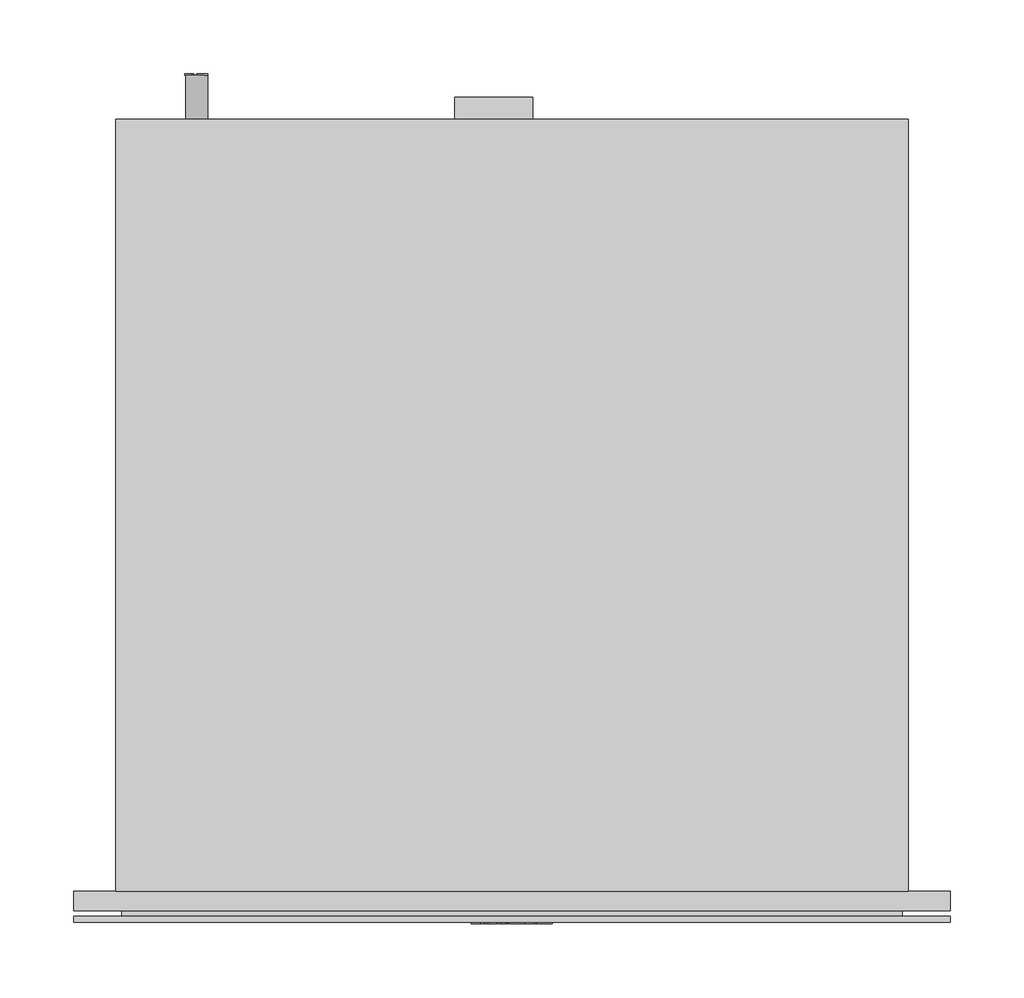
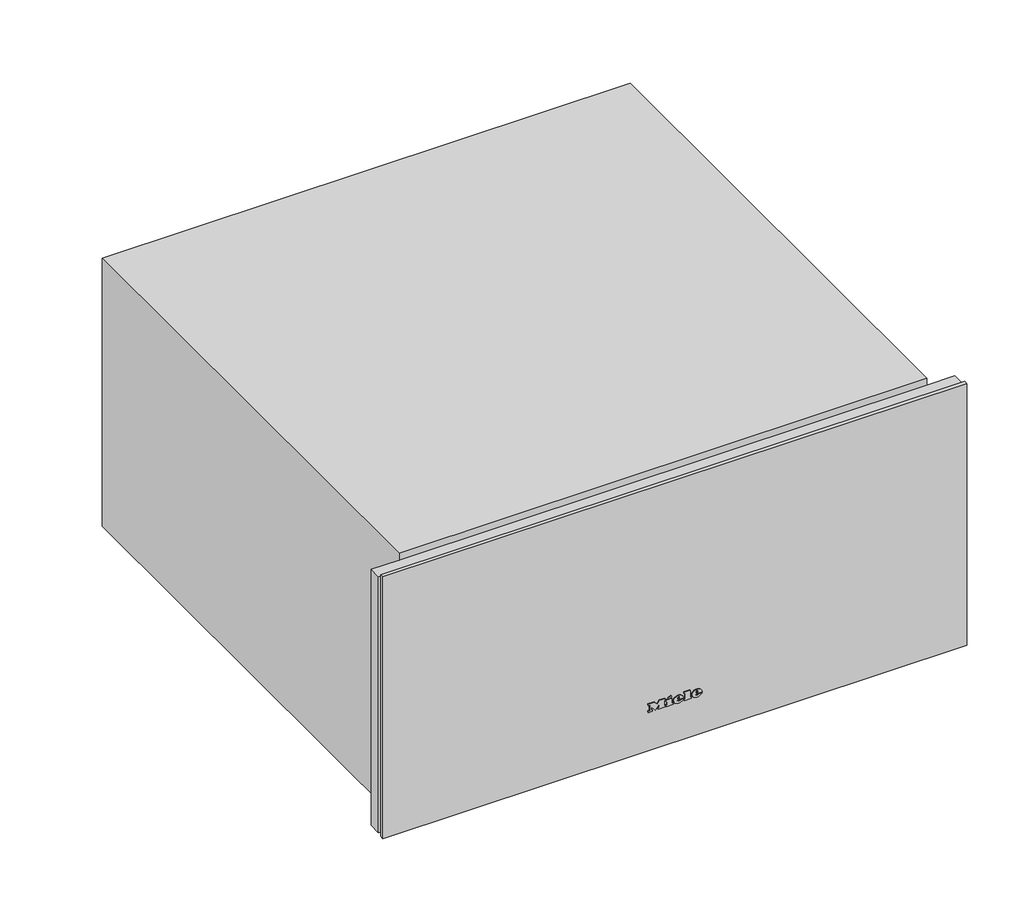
# Not in any storey: 1 proxy.
"""IFC4 building model written with IfcOpenShell, lengths in millimetres."""

import ifcopenshell
import ifcopenshell.guid

model = None  # the IFC model being written
_history = None  # IfcOwnerHistory: only IFC2X3 demands one
_inside = {}  # id of a spatial element -> (the spatial element, [elements in it])
_under = {}  # id of a project, library or spatial element -> (it, [spatial elements below it])
_declared = {}  # id of a project -> (the project, [libraries it declares])
_typed = {}  # id of a type object -> (the type object, [elements of that type])
_made_of = {}  # id of a material, layer set ... -> (it, [elements and type objects made of it])


def new_model(schema):
    """Start an empty IFC model of exactly this schema.

    Asked for "IFC4X3", IfcOpenShell would pick the latest addendum, in which some entities
    have other attributes; the version numbers below select the first issue.
    IFC2X3 requires an IfcOwnerHistory on every rooted entity: one is made here for all.
    """
    global model, _history
    if schema == "IFC4X3":
        model = ifcopenshell.file(schema_version=(4, 3, 0, 0))
    else:
        model = ifcopenshell.file(schema=schema)
    _inside.clear()
    _under.clear()
    _declared.clear()
    _typed.clear()
    _made_of.clear()
    _history = None
    if model.schema == "IFC2X3":
        org = make("IfcOrganization", Name="unknown")
        user = make(
            "IfcPersonAndOrganization",
            ThePerson=make("IfcPerson", FamilyName="unknown"),
            TheOrganization=org,
        )
        app = make(
            "IfcApplication",
            ApplicationDeveloper=org,
            Version="unknown",
            ApplicationFullName="unknown",
            ApplicationIdentifier="unknown",
        )
        _history = make(
            "IfcOwnerHistory",
            OwningUser=user,
            OwningApplication=app,
            ChangeAction="ADDED",
            CreationDate=0,
        )
    return model


def make(cls, **values):
    """One entity of the class cls with the attributes given. An attribute that is None is left unset."""
    return model.create_entity(
        cls, **{name: value for name, value in values.items() if value is not None}
    )


def rooted(cls, **values):
    """An entity with a GlobalId (a new one), such as an element, a storey or a relation."""
    return make(cls, GlobalId=ifcopenshell.guid.new(), OwnerHistory=_history, **values)


def si_unit(unit_type, name, prefix=None):
    """IfcSIUnit, for example si_unit("LENGTHUNIT", "METRE", prefix="MILLI")."""
    return make("IfcSIUnit", UnitType=unit_type, Prefix=prefix, Name=name)


def assignment(units):
    """IfcUnitAssignment: the units of a project."""
    return None if units is None else make("IfcUnitAssignment", Units=units)


def point(xyz):
    """IfcCartesianPoint."""
    return None if xyz is None else make("IfcCartesianPoint", Coordinates=xyz)


def direction(xyz):
    """IfcDirection."""
    return None if xyz is None else make("IfcDirection", DirectionRatios=xyz)


def frame(location, z_axis=None, x_axis=None):
    """IfcAxis2Placement3D, a coordinate frame: its origin and axes. An axis left out is left unset."""
    return make(
        "IfcAxis2Placement3D",
        Location=point(location),
        Axis=direction(z_axis),
        RefDirection=direction(x_axis),
    )


def frame_2d(location, x_axis=None):
    """IfcAxis2Placement2D, a coordinate frame in the plane: its origin and x axis."""
    return make(
        "IfcAxis2Placement2D", Location=point(location), RefDirection=direction(x_axis)
    )


def origin():
    """The frame at (0, 0, 0) with its axes left unset."""
    return frame((0.0, 0.0, 0.0))


def place(relative_to, where):
    """IfcLocalPlacement: puts the frame where relative to a parent placement (None: the world)."""
    return make(
        "IfcLocalPlacement", PlacementRelTo=relative_to, RelativePlacement=where
    )


def context(
    kind, dimensions, precision=None, world=None, true_north=None, identifier=None
):
    """IfcGeometricRepresentationContext, for example the 3D "Model" context."""
    return make(
        "IfcGeometricRepresentationContext",
        ContextIdentifier=identifier,
        ContextType=kind,
        CoordinateSpaceDimension=dimensions,
        Precision=precision,
        WorldCoordinateSystem=world,
        TrueNorth=true_north,
    )


def project(units=None, contexts=None):
    """IfcProject with its units and contexts."""
    return rooted(
        "IfcProject",
        Name="project",
        RepresentationContexts=contexts,
        UnitsInContext=assignment(units),
    )


def spatial(cls, under=None, at=None, **own):
    """A site, building, storey or space (cls), placed at a placement, below another one or the project."""
    s = rooted(cls, ObjectPlacement=at, **own)
    if under is not None:
        _under.setdefault(under.id(), (under, []))[1].append(s)
    return s


def polyline(points):
    """IfcPolyline through the points."""
    return make("IfcPolyline", Points=[point(p) for p in points])


def circle_curve(where, radius):
    """IfcCircle in the frame where."""
    return make("IfcCircle", Position=where, Radius=radius)


def ellipse_curve(where, semi_axis1, semi_axis2):
    """IfcEllipse in the frame where."""
    return make(
        "IfcEllipse", Position=where, SemiAxis1=semi_axis1, SemiAxis2=semi_axis2
    )


def trimmed(basis, trim1, trim2, sense, master):
    """IfcTrimmedCurve: the piece of a basis curve between two trims."""
    return make(
        "IfcTrimmedCurve",
        BasisCurve=basis,
        Trim1=trim1,
        Trim2=trim2,
        SenseAgreement=sense,
        MasterRepresentation=master,
    )


def segment(curve, same_sense, transition):
    """IfcCompositeCurveSegment."""
    return make(
        "IfcCompositeCurveSegment",
        Transition=transition,
        SameSense=same_sense,
        ParentCurve=curve,
    )


def composite_curve(segments, self_intersect=None):
    """IfcCompositeCurve: segments joined end to end."""
    return make("IfcCompositeCurve", Segments=segments, SelfIntersect=self_intersect)


def outline(outer, holes=None, kind="AREA"):
    """IfcArbitraryClosedProfileDef: a profile drawn as a closed curve; with holes, ...WithVoids."""
    if holes is None:
        return make("IfcArbitraryClosedProfileDef", ProfileType=kind, OuterCurve=outer)
    return make(
        "IfcArbitraryProfileDefWithVoids",
        ProfileType=kind,
        OuterCurve=outer,
        InnerCurves=holes,
    )


def extrude(swept, where, along, depth):
    """IfcExtrudedAreaSolid: the profile swept, set in the frame where, extruded along a direction by depth."""
    return make(
        "IfcExtrudedAreaSolid",
        SweptArea=swept,
        Position=where,
        ExtrudedDirection=direction(along),
        Depth=depth,
    )


def faces_of(points, faces, orient=None, outer=None):
    """IfcFace entities. A face is a list of loops; a loop is a list of indices into points, from 0.

    orient and outer hold one flag for each loop. By default every Orientation is true, the
    first loop of a face is its IfcFaceOuterBound and the others are IfcFaceBound.
    """
    made = []
    for i, loops in enumerate(faces):
        bounds = []
        for j, loop in enumerate(loops):
            is_outer = j == 0 if outer is None else outer[i][j]
            bounds.append(
                make(
                    "IfcFaceOuterBound" if is_outer else "IfcFaceBound",
                    Bound=make("IfcPolyLoop", Polygon=[points[k] for k in loop]),
                    Orientation=True if orient is None else orient[i][j],
                )
            )
        made.append(make("IfcFace", Bounds=bounds))
    return made


def faceted_brep(points, faces, orient=None, outer=None, voids=None):
    """IfcFacetedBrep: a solid bounded by flat faces; with voids (closed shells), ...WithVoids."""
    shared = [point(p) for p in points]
    hull = make("IfcClosedShell", CfsFaces=faces_of(shared, faces, orient, outer))
    if voids is None:
        return make("IfcFacetedBrep", Outer=hull)
    return make(
        "IfcFacetedBrepWithVoids",
        Outer=hull,
        Voids=[
            make(cls, CfsFaces=faces_of(shared, fs, o, b)) for cls, fs, o, b in voids
        ],
    )


def shape(context_of_items, identifier, shape_type, items):
    """IfcShapeRepresentation: the items that make up one representation, for example the "Body"."""
    return make(
        "IfcShapeRepresentation",
        ContextOfItems=context_of_items,
        RepresentationIdentifier=identifier,
        RepresentationType=shape_type,
        Items=items,
    )


def source(mapping_origin, context_of_items, identifier, shape_type, items):
    """IfcRepresentationMap: a shape defined once, which mapped items show again and again."""
    return make(
        "IfcRepresentationMap",
        MappingOrigin=mapping_origin,
        MappedRepresentation=shape(context_of_items, identifier, shape_type, items),
    )


def transform(
    local_origin,
    x_axis=None,
    y_axis=None,
    z_axis=None,
    scale=None,
    scale2=None,
    scale3=None,
    uniform=True,
):
    """IfcCartesianTransformationOperator3D, or its non-uniform kind. x_axis, y_axis, z_axis: its Axis1, 2, 3."""
    if uniform:
        return make(
            "IfcCartesianTransformationOperator3D",
            Axis1=direction(x_axis),
            Axis2=direction(y_axis),
            LocalOrigin=point(local_origin),
            Scale=scale,
            Axis3=direction(z_axis),
        )
    return make(
        "IfcCartesianTransformationOperator3DnonUniform",
        Axis1=direction(x_axis),
        Axis2=direction(y_axis),
        LocalOrigin=point(local_origin),
        Scale=scale,
        Axis3=direction(z_axis),
        Scale2=scale2,
        Scale3=scale3,
    )


def mapped(mapping_source, mapping_target):
    """IfcMappedItem: shows the shape of a source again, moved by a transform."""
    return make(
        "IfcMappedItem", MappingSource=mapping_source, MappingTarget=mapping_target
    )


def made_of(thing, what):
    """Note that an element or type object is made of a material, layer set ...; save() writes the relation."""
    if what is not None:
        _made_of.setdefault(what.id(), (what, []))[1].append(thing)
    return thing


def element(
    cls,
    number,
    at=None,
    inside=None,
    cuts=None,
    type_object=None,
    material=None,
    context=None,
    identifier="Body",
    shape_type=None,
    held_by="IfcProductDefinitionShape",
    body=None,
    shapes=None,
    **own,
):
    """One element of the class cls, such as IfcWall. Its Tag is "e" and its number.

    at: its placement. inside: the storey or other place that contains it. cuts: it is an
    opening in that element (IfcRelVoidsElement). A single representation is given by context,
    identifier, shape_type and body (its items); several are given by shapes. held_by: the class
    of the entity that holds the representations. save() writes the other relations.
    """
    e = rooted(cls, Tag="e%d" % number, ObjectPlacement=at, **own)
    if body is not None:
        shapes = [shape(context, identifier, shape_type, body)]
    if shapes is not None:
        e.Representation = make(held_by, Representations=shapes)
    if inside is not None:
        _inside.setdefault(inside.id(), (inside, []))[1].append(e)
    if cuts is not None:
        rooted(
            "IfcRelVoidsElement", RelatingBuildingElement=cuts, RelatedOpeningElement=e
        )
    if type_object is not None:
        _typed.setdefault(type_object.id(), (type_object, []))[1].append(e)
    return made_of(e, material)


def aggregate(whole, parts):
    """IfcRelAggregates: a whole, such as a stair, and the parts it consists of."""
    return rooted("IfcRelAggregates", RelatingObject=whole, RelatedObjects=parts)


def save(model, path):
    """Write the relations noted so far, then the file.

    IfcRelAggregates (storeys below a building ...), IfcRelContainedInSpatialStructure (elements
    in a storey), IfcRelDefinesByType, IfcRelAssociatesMaterial and IfcRelDeclares: one each for
    every whole, place, type object, material and project.
    """
    for whole, parts in _under.values():
        aggregate(whole, parts)
    for where, things in _inside.values():
        rooted(
            "IfcRelContainedInSpatialStructure",
            RelatedElements=things,
            RelatingStructure=where,
        )
    for kind, things in _typed.values():
        rooted("IfcRelDefinesByType", RelatedObjects=things, RelatingType=kind)
    for what, things in _made_of.values():
        rooted("IfcRelAssociatesMaterial", RelatedObjects=things, RelatingMaterial=what)
    for by, libraries in _declared.values():
        rooted("IfcRelDeclares", RelatingContext=by, RelatedDefinitions=libraries)
    model.write(path)


def plane_surface(at):
    """IfcPlane: the flat surface through the origin of the frame at, square to its z axis."""
    return make("IfcPlane", Position=at)


def cylinder_surface(at, radius):
    """IfcCylindricalSurface: all points at the distance radius from the z axis of the frame at."""
    return make("IfcCylindricalSurface", Position=at, Radius=radius)


def revolved_surface(curve, axis_point, axis_direction):
    """IfcSurfaceOfRevolution: the curve turned about the line through axis_point along axis_direction."""
    return make(
        "IfcSurfaceOfRevolution",
        SweptCurve=make("IfcArbitraryOpenProfileDef", ProfileType="CURVE", Curve=curve),
        AxisPosition=make("IfcAxis1Placement", Location=point(axis_point), Axis=direction(axis_direction)),
    )


def extruded_surface(curve, direction_of_extrusion, depth):
    """IfcSurfaceOfLinearExtrusion: the curve pushed along a direction by depth."""
    return make(
        "IfcSurfaceOfLinearExtrusion",
        SweptCurve=make("IfcArbitraryOpenProfileDef", ProfileType="CURVE", Curve=curve),
        ExtrudedDirection=direction(direction_of_extrusion),
        Depth=depth,
    )


def advanced_brep(points, edges, surfaces, faces):
    """IfcAdvancedBrep: a solid bounded by faces that lie on surfaces and meet in shared edges.

    An edge is (start, end): straight between two places in points (the first is 0);
    or (start, end, curve); or (start, end, curve, False) where it runs against its curve.
    A face is (place in surfaces, loops), or (place, loops, False) where it looks against
    its surface's normal. A loop lists edges by number (the first is 1), with a minus sign
    where the edge is run from its end to its start. The first loop is the outer one.
    """
    corners = [point(p) for p in points]
    vertices = [make("IfcVertexPoint", VertexGeometry=c) for c in corners]
    made = []
    for start, end, *more in edges:
        made.append(
            make(
                "IfcEdgeCurve",
                EdgeStart=vertices[start],
                EdgeEnd=vertices[end],
                EdgeGeometry=more[0] if more else make("IfcPolyline", Points=[corners[start], corners[end]]),
                SameSense=more[1] if len(more) > 1 else True,
            )
        )
    hull = []
    for where, loops, *sense in faces:
        bounds = []
        for j, loop in enumerate(loops):
            ring = [make("IfcOrientedEdge", EdgeElement=made[abs(k) - 1], Orientation=k > 0) for k in loop]
            bounds.append(
                make(
                    "IfcFaceOuterBound" if j == 0 else "IfcFaceBound",
                    Bound=make("IfcEdgeLoop", EdgeList=ring),
                    Orientation=True,
                )
            )
        hull.append(make("IfcAdvancedFace", Bounds=bounds, FaceSurface=surfaces[where], SameSense=sense[0] if sense else True))
    return make("IfcAdvancedBrep", Outer=make("IfcClosedShell", CfsFaces=hull))


def specialty_equipment_7f4cc5ff(model_context):
    return source(origin(), model_context, "Body", "SolidModel", [
        advanced_brep(
        [(21.28, -22.0, 48.133), (21.28, -22.0, 49.042), (27.301, -22.0, 49.042), (16.825, -22.0, 49.042), (19.3, -22.0, 46.0), (27.148, -22.0, 48.133), (24.43, -22.0, 48.133), (22.288, -22.0, 47.125), (21.28, -22.0, 50.194), (21.28, -22.0, 51.175), (22.819, -22.0, 51.175), (22.819, -22.0, 50.194), (21.28, -21.0, 48.133), (22.288, -21.0, 47.125), (24.43, -21.0, 48.133), (27.148, -21.0, 48.133), (19.3, -21.0, 46.0), (16.825, -21.0, 49.042), (27.301, -21.0, 49.042), (21.28, -21.0, 49.042), (21.28, -21.0, 50.194), (22.819, -21.0, 50.194), (22.819, -21.0, 51.175), (21.28, -21.0, 51.175)],
        [
            (0, 1),
            (1, 2),
            (2, 3, ellipse_curve(frame((22.063, -22.0, 49.042), z_axis=(0.0, -1.0, 0.0), x_axis=(-1.0, 0.0, 0.0)), 5.238, 4.329)),
            (3, 4, circle_curve(frame((20.3080491, -22.0, 49.348), z_axis=(0.0, -1.0, 0.0), x_axis=(0.0, 0.0, -1.0)), 3.4964649)),
            (4, 5, circle_curve(frame((21.9581428, -22.0, 51.724), z_axis=(0.0, -1.0, 0.0), x_axis=(0.0, 0.0, -1.0)), 6.3110933)),
            (5, 6),
            (6, 7, circle_curve(frame((22.7279412, -22.0, 48.97), z_axis=(0.0, 1.0, 0.0), x_axis=(0.0, 0.0, -1.0)), 1.896727)),
            (7, 0, circle_curve(frame((22.288, -22.0, 48.133), z_axis=(0.0, 1.0, 0.0), x_axis=(0.0, 0.0, -1.0)), 1.008)),
            (8, 9),
            (9, 10, circle_curve(frame((22.0495, -22.0, 51.175), z_axis=(0.0, 1.0, 0.0), x_axis=(0.0, 0.0, -1.0)), 0.7695)),
            (10, 11),
            (11, 8),
            (12, 13, circle_curve(frame((22.288, -21.0, 48.133), z_axis=(0.0, -1.0, 0.0), x_axis=(0.0, 0.0, -1.0)), 1.008)),
            (13, 14, circle_curve(frame((22.7279412, -21.0, 48.97), z_axis=(0.0, -1.0, 0.0), x_axis=(0.0, 0.0, -1.0)), 1.896727)),
            (14, 15),
            (15, 16, circle_curve(frame((21.9581428, -21.0, 51.724), z_axis=(0.0, 1.0, 0.0), x_axis=(0.0, 0.0, -1.0)), 6.3110933)),
            (16, 17, circle_curve(frame((20.3080491, -21.0, 49.348), z_axis=(0.0, 1.0, 0.0), x_axis=(0.0, 0.0, -1.0)), 3.4964649)),
            (17, 18, ellipse_curve(frame((22.063, -21.0, 49.042), z_axis=(0.0, 1.0, 0.0), x_axis=(-1.0, 0.0, 0.0)), 5.238, 4.329)),
            (18, 19),
            (19, 12),
            (20, 21),
            (21, 22),
            (22, 23, circle_curve(frame((22.0495, -21.0, 51.175), z_axis=(0.0, -1.0, 0.0), x_axis=(0.0, 0.0, -1.0)), 0.7695)),
            (23, 20),
            (0, 12),
            (19, 1),
            (18, 2),
            (5, 15),
            (14, 6),
            (17, 3),
            (13, 7),
            (16, 4),
            (8, 20),
            (23, 9),
            (22, 10),
            (21, 11),
        ],
        [
            plane_surface(frame((21.28, -22.0, 49.042), z_axis=(0.0, -1.0, 0.0), x_axis=(0.0, 0.0, 1.0))),
            plane_surface(frame((21.28, -21.0, 49.042), z_axis=(0.0, 1.0, 0.0), x_axis=(0.0, 0.0, -1.0))),
            plane_surface(frame((21.28, -22.0, 48.133), z_axis=(1.0, 0.0, 0.0), x_axis=(0.0, 1.0, 0.0))),
            plane_surface(frame((21.28, -22.0, 49.042), z_axis=(0.0, 0.0, -1.0), x_axis=(0.0, 1.0, 0.0))),
            plane_surface(frame((27.148, -22.0, 48.133), z_axis=(0.0, 0.0, 1.0), x_axis=(0.0, 1.0, 0.0))),
            extruded_surface(trimmed(ellipse_curve(frame((22.063, -20.0, 49.042), z_axis=(0.0, -1.0, 0.0), x_axis=(-1.0, 0.0, 0.0)), 5.238, 4.329), [point((27.301, -20.0, 49.042))], [point((16.825, -20.0, 49.042))], True, "CARTESIAN"), (0.0, -1.0, 0.0), 1.0),
            revolved_surface(polyline([(22.7279412, -21.0, 47.073273), (22.7279412, -22.0, 47.073273)]), (22.7279412, -21.0, 48.97), (0.0, 1.0, 0.0)),
            revolved_surface(polyline([(22.288, -21.0, 47.125), (22.288, -22.0, 47.125)]), (22.288, -21.0, 48.133), (0.0, 1.0, 0.0)),
            cylinder_surface(frame((20.3080491, -21.0, 49.348), z_axis=(0.0, -1.0, 0.0), x_axis=(0.0, 0.0, -1.0)), 3.4964649),
            cylinder_surface(frame((21.9581428, -21.0, 51.724), z_axis=(0.0, -1.0, 0.0), x_axis=(0.0, 0.0, -1.0)), 6.3110933),
            plane_surface(frame((21.28, -22.0, 50.194), z_axis=(1.0, 0.0, 0.0), x_axis=(0.0, 1.0, 0.0))),
            revolved_surface(polyline([(22.0495, -21.0, 50.405499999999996), (22.0495, -22.0, 50.405499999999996)]), (22.0495, -21.0, 51.175), (0.0, 1.0, 0.0)),
            plane_surface(frame((22.819, -22.0, 51.175), z_axis=(-1.0, 0.0, 0.0), x_axis=(0.0, 1.0, 0.0))),
            plane_surface(frame((22.819, -22.0, 50.194), z_axis=(0.0, 0.0, 1.0), x_axis=(0.0, 1.0, 0.0))),
        ],
        [
            (0, [[1, 2, 3, 4, 5, 6, 7, 8], [9, 10, 11, 12]]),
            (1, [[13, 14, 15, 16, 17, 18, 19, 20], [21, 22, 23, 24]]),
            (2, [[-1, 25, -20, 26]]),
            (3, [[-2, -26, -19, 27]]),
            (4, [[-6, 28, -15, 29]]),
            (5, [[-3, -27, -18, 30]]),
            (6, [[-7, -29, -14, 31]]),
            (7, [[-8, -31, -13, -25]]),
            (8, [[-4, -30, -17, 32]]),
            (9, [[-5, -32, -16, -28]]),
            (10, [[-9, 33, -24, 34]]),
            (11, [[-10, -34, -23, 35]]),
            (12, [[-11, -35, -22, 36]]),
            (13, [[-12, -36, -21, -33]]),
        ],
    ),
        advanced_brep(
        [(2.497, -22.0, 48.133), (2.497, -22.0, 49.042), (8.518, -22.0, 49.042), (-1.958, -22.0, 49.042), (0.517, -22.0, 46.0), (8.365, -22.0, 48.133), (5.647, -22.0, 48.133), (3.505, -22.0, 47.125), (2.497, -22.0, 50.194), (2.497, -22.0, 51.175), (4.036, -22.0, 51.175), (4.036, -22.0, 50.194), (2.497, -21.0, 48.133), (3.505, -21.0, 47.125), (5.647, -21.0, 48.133), (8.365, -21.0, 48.133), (0.517, -21.0, 46.0), (-1.958, -21.0, 49.042), (8.518, -21.0, 49.042), (2.497, -21.0, 49.042), (2.497, -21.0, 50.194), (4.036, -21.0, 50.194), (4.036, -21.0, 51.175), (2.497, -21.0, 51.175)],
        [
            (0, 1),
            (1, 2),
            (2, 3, ellipse_curve(frame((3.28, -22.0, 49.042), z_axis=(0.0, -1.0, 0.0), x_axis=(-1.0, 0.0, 0.0)), 5.238, 4.329)),
            (3, 4, circle_curve(frame((1.5250491, -22.0, 49.348), z_axis=(0.0, -1.0, 0.0), x_axis=(0.0, 0.0, -1.0)), 3.4964649)),
            (4, 5, circle_curve(frame((3.1751428, -22.0, 51.724), z_axis=(0.0, -1.0, 0.0), x_axis=(0.0, 0.0, -1.0)), 6.3110933)),
            (5, 6),
            (6, 7, circle_curve(frame((3.9449412, -22.0, 48.97), z_axis=(0.0, 1.0, 0.0), x_axis=(0.0, 0.0, -1.0)), 1.896727)),
            (7, 0, circle_curve(frame((3.505, -22.0, 48.133), z_axis=(0.0, 1.0, 0.0), x_axis=(0.0, 0.0, -1.0)), 1.008)),
            (8, 9),
            (9, 10, circle_curve(frame((3.2665, -22.0, 51.175), z_axis=(0.0, 1.0, 0.0), x_axis=(0.0, 0.0, -1.0)), 0.7695)),
            (10, 11),
            (11, 8),
            (12, 13, circle_curve(frame((3.505, -21.0, 48.133), z_axis=(0.0, -1.0, 0.0), x_axis=(0.0, 0.0, -1.0)), 1.008)),
            (13, 14, circle_curve(frame((3.9449412, -21.0, 48.97), z_axis=(0.0, -1.0, 0.0), x_axis=(0.0, 0.0, -1.0)), 1.896727)),
            (14, 15),
            (15, 16, circle_curve(frame((3.1751428, -21.0, 51.724), z_axis=(0.0, 1.0, 0.0), x_axis=(0.0, 0.0, -1.0)), 6.3110933)),
            (16, 17, circle_curve(frame((1.5250491, -21.0, 49.348), z_axis=(0.0, 1.0, 0.0), x_axis=(0.0, 0.0, -1.0)), 3.4964649)),
            (17, 18, ellipse_curve(frame((3.28, -21.0, 49.042), z_axis=(0.0, 1.0, 0.0), x_axis=(-1.0, 0.0, 0.0)), 5.238, 4.329)),
            (18, 19),
            (19, 12),
            (20, 21),
            (21, 22),
            (22, 23, circle_curve(frame((3.2665, -21.0, 51.175), z_axis=(0.0, -1.0, 0.0), x_axis=(0.0, 0.0, -1.0)), 0.7695)),
            (23, 20),
            (0, 12),
            (19, 1),
            (18, 2),
            (5, 15),
            (14, 6),
            (17, 3),
            (13, 7),
            (16, 4),
            (8, 20),
            (23, 9),
            (22, 10),
            (21, 11),
        ],
        [
            plane_surface(frame((2.497, -22.0, 49.042), z_axis=(0.0, -1.0, 0.0), x_axis=(0.0, 0.0, 1.0))),
            plane_surface(frame((2.497, -21.0, 49.042), z_axis=(0.0, 1.0, 0.0), x_axis=(0.0, 0.0, -1.0))),
            plane_surface(frame((2.497, -22.0, 48.133), z_axis=(1.0, 0.0, 0.0), x_axis=(0.0, 1.0, 0.0))),
            plane_surface(frame((2.497, -22.0, 49.042), z_axis=(0.0, 0.0, -1.0), x_axis=(0.0, 1.0, 0.0))),
            plane_surface(frame((8.365, -22.0, 48.133), z_axis=(0.0, 0.0, 1.0), x_axis=(0.0, 1.0, 0.0))),
            extruded_surface(trimmed(ellipse_curve(frame((3.28, -20.0, 49.042), z_axis=(0.0, -1.0, 0.0), x_axis=(-1.0, 0.0, 0.0)), 5.238, 4.329), [point((8.518, -20.0, 49.042))], [point((-1.958, -20.0, 49.042))], True, "CARTESIAN"), (0.0, -1.0, 0.0), 1.0),
            revolved_surface(polyline([(3.9449412, -21.0, 47.073273), (3.9449412, -22.0, 47.073273)]), (3.9449412, -21.0, 48.97), (0.0, 1.0, 0.0)),
            revolved_surface(polyline([(3.505, -21.0, 47.125), (3.505, -22.0, 47.125)]), (3.505, -21.0, 48.133), (0.0, 1.0, 0.0)),
            cylinder_surface(frame((1.5250491, -21.0, 49.348), z_axis=(0.0, -1.0, 0.0), x_axis=(0.0, 0.0, -1.0)), 3.4964649),
            cylinder_surface(frame((3.1751428, -21.0, 51.724), z_axis=(0.0, -1.0, 0.0), x_axis=(0.0, 0.0, -1.0)), 6.3110933),
            plane_surface(frame((2.497, -22.0, 50.194), z_axis=(1.0, 0.0, 0.0), x_axis=(0.0, 1.0, 0.0))),
            revolved_surface(polyline([(3.2665, -21.0, 50.405499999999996), (3.2665, -22.0, 50.405499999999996)]), (3.2665, -21.0, 51.175), (0.0, 1.0, 0.0)),
            plane_surface(frame((4.036, -22.0, 51.175), z_axis=(-1.0, 0.0, 0.0), x_axis=(0.0, 1.0, 0.0))),
            plane_surface(frame((4.036, -22.0, 50.194), z_axis=(0.0, 0.0, 1.0), x_axis=(0.0, 1.0, 0.0))),
        ],
        [
            (0, [[1, 2, 3, 4, 5, 6, 7, 8], [9, 10, 11, 12]]),
            (1, [[13, 14, 15, 16, 17, 18, 19, 20], [21, 22, 23, 24]]),
            (2, [[-1, 25, -20, 26]]),
            (3, [[-2, -26, -19, 27]]),
            (4, [[-6, 28, -15, 29]]),
            (5, [[-3, -27, -18, 30]]),
            (6, [[-7, -29, -14, 31]]),
            (7, [[-8, -31, -13, -25]]),
            (8, [[-4, -30, -17, 32]]),
            (9, [[-5, -32, -16, -28]]),
            (10, [[-9, 33, -24, 34]]),
            (11, [[-10, -34, -23, 35]]),
            (12, [[-11, -35, -22, 36]]),
            (13, [[-12, -36, -21, -33]]),
        ],
    ),
        extrude(outline(polyline([(54.469, -7.34), (53.011, -6.656), (54.433, -3.605), (55.891, -4.28), (54.469, -7.34)])), frame((0.0, -22.0, 0.0), z_axis=(0.0, 1.0, 0.0), x_axis=(0.0, 0.0, 1.0)), (0.0, 0.0, 1.0), 1.0),
        extrude(outline(polyline([(52.813, -9.563), (51.202, -9.563), (51.202, -8.492), (47.512, -8.492), (47.512, -9.563), (46.0, -9.563), (46.0, -2.462), (47.512, -2.462), (47.512, -3.506), (52.813, -3.506), (52.813, -9.563)])), frame((0.0, -22.0, 0.0), z_axis=(0.0, 1.0, 0.0), x_axis=(0.0, 0.0, 1.0)), (0.0, 0.0, 1.0), 1.0),
        extrude(outline(polyline([(53.533, 9.022), (53.533, 10.102), (47.512, 10.102), (47.512, 9.022), (46.0, 9.022), (46.0, 16.321), (47.512, 16.321), (47.512, 15.214), (55.0, 15.214), (55.0, 9.022), (53.533, 9.022)])), frame((0.0, -22.0, 0.0), z_axis=(0.0, 1.0, 0.0), x_axis=(0.0, 0.0, 1.0)), (0.0, 0.0, 1.0), 1.0),
        extrude(outline(polyline([(53.533, -27.5), (53.533, -26.411), (47.512, -26.411), (47.512, -27.5), (46.0, -27.5), (46.0, -23.54), (47.512, -23.54), (47.512, -24.62), (51.3341247, -24.62), (46.0, -20.597), (51.4402223, -16.556), (47.512, -16.556), (47.512, -17.663), (46.0, -17.663), (46.0, -10.481), (47.512, -10.481), (47.512, -11.624), (53.533, -11.624), (53.533, -10.481), (55.0, -10.481), (55.0, -15.962), (51.625, -18.59), (55.0, -21.227), (55.0, -27.5), (53.533, -27.5)])), frame((0.0, -22.0, 0.0), z_axis=(0.0, 1.0, 0.0), x_axis=(0.0, 0.0, 1.0)), (0.0, 0.0, 1.0), 1.0),
        extrude(outline(polyline([(-297.5, -17.0), (297.5, -17.0), (297.5, -21.0), (-297.5, -21.0), (-297.5, -17.0)])), frame((0.0, 0.0, 4.0), z_axis=(0.0, 0.0, 1.0), x_axis=(1.0, 0.0, 0.0)), (0.0, 0.0, 1.0), 282.0),
        extrude(outline(polyline([(-265.0, -13.0), (265.0, -13.0), (265.0, -17.0), (-265.0, -17.0), (-265.0, -13.0)])), frame((0.0, 0.0, 6.0), z_axis=(0.0, 0.0, 1.0), x_axis=(1.0, 0.0, 0.0)), (0.0, 0.0, 1.0), 273.0),
        extrude(outline(polyline([(-13.0, 10.0), (-13.0, 274.0), (19.0, 274.0), (19.0, 233.0), (4.0, 233.0), (4.0, 10.0), (-13.0, 10.0)])), frame((-261.0, 0.0, 0.0), z_axis=(1.0, 0.0, 0.0), x_axis=(0.0, 1.0, 0.0)), (0.0, 0.0, 1.0), 522.0),
        extrude(outline(polyline([(24.045335, -206.6203116), (24.045335, -213.8439827), (22.7898265, -213.8439827), (22.7898265, -207.876825), (19.8076572, -207.876825), (19.8076572, -213.5281281), (18.5519876, -213.5281281), (18.5519876, -207.876825), (15.2564531, -207.876825), (15.2564531, -213.8439827), (14.0, -213.8439827), (14.0, -206.6203116), (24.045335, -206.6203116)])), frame((0.0, 554.0, 0.0), z_axis=(0.0, 1.0, 0.0), x_axis=(0.0, 0.0, 1.0)), (0.0, 0.0, 1.0), 1.0),
        extrude(outline(polyline([(24.0461611, -217.1431874), (15.255243, -217.1431874), (15.255243, -222.1617362), (13.9997538, -222.1617362), (13.9997538, -217.1431874), (13.9997538, -215.8823011), (24.0461611, -215.8823011), (24.0461611, -217.1431874)])), frame((0.0, 554.0, 0.0), z_axis=(0.0, 1.0, 0.0), x_axis=(0.0, 0.0, 1.0)), (0.0, 0.0, 1.0), 1.0),
        extrude(outline(composite_curve([segment(trimmed(circle_curve(frame_2d((19.0, -214.0)), 7.5), [point((19.0, -206.5))], [point((19.0, -221.5))], False, "CARTESIAN"), True, "CONTINUOUS"), segment(trimmed(circle_curve(frame_2d((19.0, -214.0)), 7.5), [point((19.0, -221.5))], [point((19.0, -206.5))], False, "CARTESIAN"), True, "CONTINUOUS")], self_intersect=False)), frame((0.0, 524.0, 0.0), z_axis=(0.0, 1.0, 0.0), x_axis=(0.0, 0.0, 1.0)), (0.0, 0.0, 1.0), 30.0),
        faceted_brep([(269.0, 524.0, 289.0), (269.0, 524.0, 0.0), (-269.0, 524.0, 0.0), (-269.0, 524.0, 289.0), (269.0, 0.0, 289.0), (269.0, 0.0, 281.5), (269.0, 0.0, 5.5), (269.0, 0.0, 0.0), (-269.0, 0.0, 0.0), (-269.0, 0.0, 5.5), (-269.0, 0.0, 281.5), (-269.0, 0.0, 289.0), (-297.5, 0.0, 281.5), (-297.5, -13.0, 281.5), (297.5, -13.0, 281.5), (297.5, 0.0, 281.5), (-267.0, 0.0, 5.5), (-267.0, -13.0, 5.5), (-297.5, -13.0, 5.5), (-297.5, 0.0, 5.5), (267.0, 0.0, 5.5), (297.5, 0.0, 5.5), (297.5, -13.0, 5.5), (267.0, -13.0, 5.5), (-267.0, -13.0, 279.0), (267.0, -13.0, 279.0), (267.0, 522.0, 279.0), (-267.0, 522.0, 279.0), (-267.0, 522.0, 6.0), (267.0, 522.0, 6.0), (-267.0, 0.0, 6.0), (267.0, 0.0, 6.0)], [[[0, 1, 2, 3]], [[1, 0, 4, 5, 6, 7]], [[3, 2, 8, 9, 10, 11]], [[5, 10, 12, 13, 14, 15]], [[10, 5, 4, 11]], [[9, 16, 17, 18, 19]], [[20, 6, 21, 22, 23]], [[12, 10, 9, 19]], [[5, 15, 21, 6]], [[14, 13, 18, 17, 24, 25, 23, 22]], [[15, 14, 22, 21]], [[13, 12, 19, 18]], [[26, 27, 28, 29]], [[29, 28, 30, 31]], [[27, 26, 25, 24]], [[30, 16, 9, 8, 7, 6, 20, 31]], [[2, 1, 7, 8]], [[0, 3, 11, 4]], [[17, 16, 30, 28, 27, 24]], [[25, 26, 29, 31, 20, 23]]]),
        extrude(outline(polyline([(-39.0, 539.0), (14.0, 539.0), (14.0, 524.0), (-39.0, 524.0), (-39.0, 539.0)])), frame((0.0, 0.0, 4.0), z_axis=(0.0, 0.0, 1.0), x_axis=(1.0, 0.0, 0.0)), (0.0, 0.0, 1.0), 29.0),
    ])


model = new_model("IFC4")

# Units and contexts
model_context = context("Model", 3, world=origin())
ifc_project = project(units=[si_unit("LENGTHUNIT", "METRE", prefix="MILLI")], contexts=[model_context])

# Site, building
site = spatial("IfcSite", under=ifc_project)
building = spatial("IfcBuilding", under=site)

# Proxy
placement = place(None, origin())
specialty_equipment_shape = specialty_equipment_7f4cc5ff(model_context)
element("IfcBuildingElementProxy", 1, Name="11095640_F_ESW7120_EDST-CLST : 30712040_F_11095640_ESW7120_EDST-CLST", ObjectType="11095640_F_ESW7120_EDST-CLST : 30712040_F_11095640_ESW7120_EDST-CLST", at=placement, inside=building, context=model_context, shape_type="MappedRepresentation", body=[
    mapped(specialty_equipment_shape, transform((0.0, 0.0, 0.0), x_axis=(1.0, 0.0, 0.0), y_axis=(0.0, 1.0, 0.0), z_axis=(0.0, 0.0, 1.0))),
])

save(model, "model.ifc")
